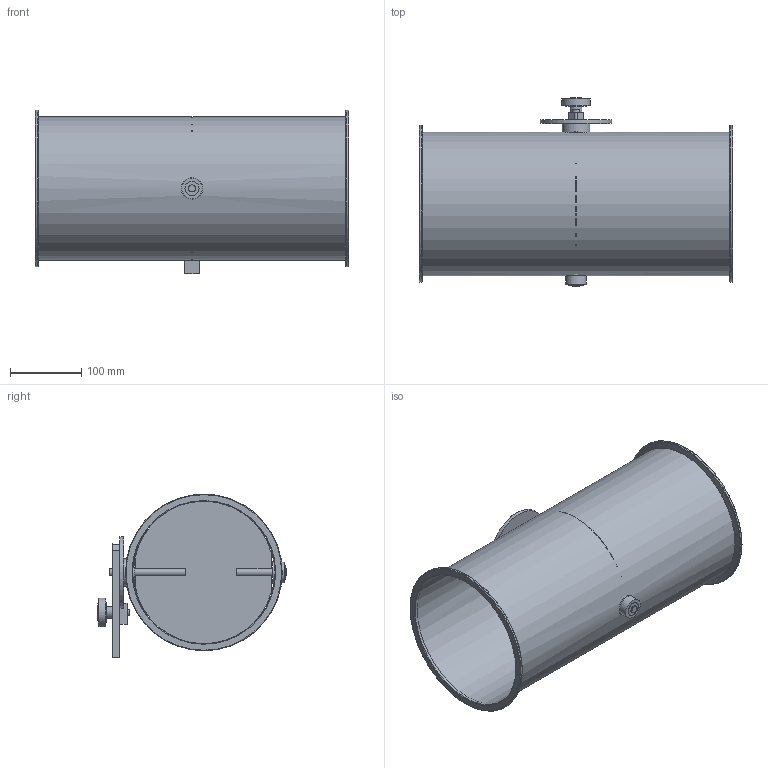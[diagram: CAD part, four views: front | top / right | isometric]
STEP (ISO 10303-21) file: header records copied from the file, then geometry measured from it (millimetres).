
FILE_DESCRIPTION(/* description */ (''),/* implementation_level */ '2;1');
FILE_NAME(/* name */ 'METU_Drosselklappe_Flansch_verzinkt_EA101-80B__200_L440_handbetaetigt.stp',/* time_stamp */ '2022-04-22T14:37:20+02:00',/* author */ (''),/* organization */ (''),/* preprocessor_version */ 'ST-DEVELOPER v11',/* originating_system */ 'SIEMENS UGS NX 6.0',/* authorisation */ '');
FILE_SCHEMA (('CONFIG_CONTROL_DESIGN'));
Length unit declared in the file: millimetre
Products named in the file (1): d.ga332Aq93p
Bounding box: 440 x 265.31 x 230 mm (x, y, z)
Volume: 437597.6 mm3; surface area: 691956.7 mm2
Topology: 12 solids, 12 shells, 85 faces, 172 edges, 116 vertices
Faces by surface type: plane 40, cylinder 35, torus 6, cone 2, sphere 2
Full cylindrical faces by diameter (mm): 4.4 x5, 6.8 x1, 8 x1, 9 x1, 10 x5, 16.5 x1, 19 x3, 19.85 x2, 20 x2, 29 x1, 30 x2, 35 x1, 39 x1, 40 x1, 100 x1, 200 x1, 201.6 x1, 220 x2
Entity records: 2112 total; most frequent: CARTESIAN_POINT 374, DIRECTION 358, ORIENTED_EDGE 236, EDGE_LOOP 162, AXIS2_PLACEMENT_3D 158, FACE_BOUND 140, EDGE_CURVE 118, VERTEX_POINT 102
